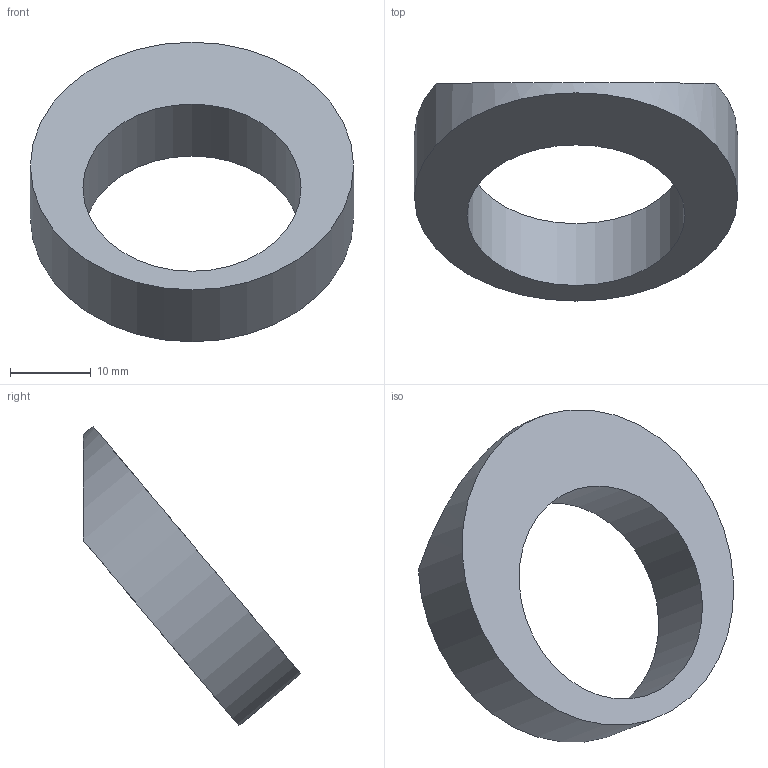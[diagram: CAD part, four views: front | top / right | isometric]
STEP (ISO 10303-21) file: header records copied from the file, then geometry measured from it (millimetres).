
FILE_DESCRIPTION( ( 'STEP AP214' ), '1' );
FILE_NAME( 'C:/Users/swati/Swati/Swati/handle/New folder/9207443/9207443.stp', ' ', ( ' ' ), ( ' ' ), 'PSStep 15.0.47', 'PARTsolutions', ' ' );
FILE_SCHEMA( ( 'AUTOMOTIVE_DESIGN { 1 0 10303 214 1 1 1 1 }' ) );
Length unit declared in the file: millimetre
Products named in the file (2): 95 ; _
Assembly tree (1 placements, depth 2):
  95 
    _
Bounding box: 40 x 26.94 x 37.07 mm (x, y, z)
Volume: 5844.7 mm3; surface area: 3469 mm2
Topology: 1 solids, 1 shells, 9 faces, 17 edges, 11 vertices
Faces by surface type: plane 5, cylinder 4
Full cylindrical faces by diameter (mm): 4 x2, 27 x1, 40 x1
Entity records: 308 total; most frequent: DIRECTION 42, CARTESIAN_POINT 31, ORIENTED_EDGE 22, AXIS2_PLACEMENT_3D 20, EDGE_LOOP 16, FACE_OUTER_BOUND 13, EDGE_CURVE 11, STYLED_ITEM 9
